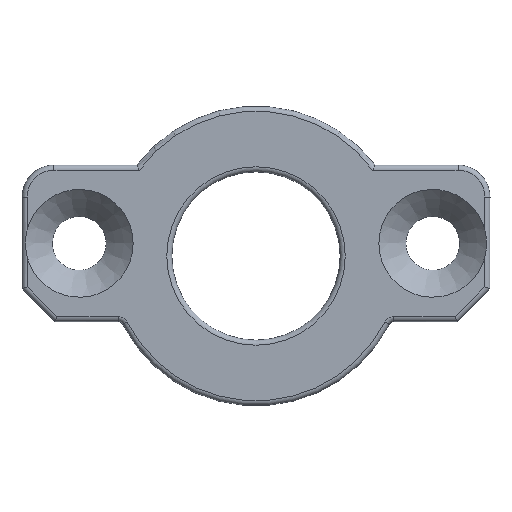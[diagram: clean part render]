
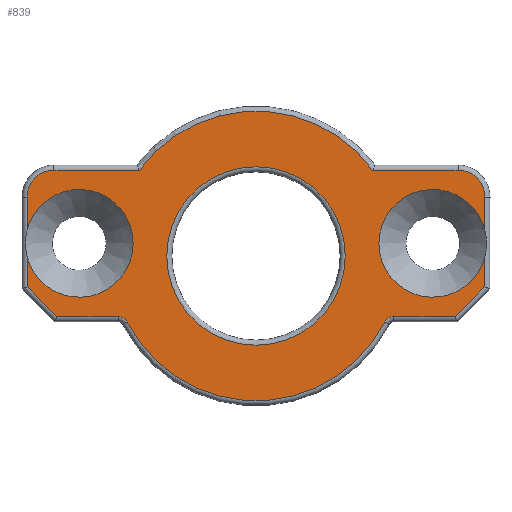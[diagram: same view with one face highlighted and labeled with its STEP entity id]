
A CAD part, top view. The second image highlights one B-rep face of the part: STEP entity #839.
In plain terms, the highlighted planar face has unit normal (0, 0, 1).
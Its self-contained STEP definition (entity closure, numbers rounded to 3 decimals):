
#33=FACE_BOUND('',#270,.T.);
#38=PLANE('',#965);
#49=LINE('',#1351,#103);
#51=LINE('',#1358,#105);
#52=LINE('',#1361,#106);
#75=LINE('',#1506,#129);
#76=LINE('',#1509,#130);
#79=LINE('',#1515,#133);
#81=LINE('',#1522,#135);
#82=LINE('',#1542,#136);
#84=LINE('',#1544,#138);
#85=LINE('',#1552,#139);
#103=VECTOR('',#1022,10.);
#105=VECTOR('',#1028,10.);
#106=VECTOR('',#1031,10.);
#129=VECTOR('',#1164,10.);
#130=VECTOR('',#1169,10.);
#133=VECTOR('',#1174,10.);
#135=VECTOR('',#1182,10.);
#136=VECTOR('',#1193,10.);
#138=VECTOR('',#1195,10.);
#139=VECTOR('',#1206,10.);
#215=FACE_OUTER_BOUND('',#269,.T.);
#269=EDGE_LOOP('',(#679,#680,#681,#682,#683,#684,#685,#686,#687,#688,#689,
#690,#691,#692,#693,#694,#695,#696,#697));
#270=EDGE_LOOP('',(#698));
#298=CIRCLE('',#888,8.6);
#304=CIRCLE('',#899,0.6);
#308=CIRCLE('',#904,0.6);
#329=CIRCLE('',#946,8.6);
#333=CIRCLE('',#957,1.6);
#336=CIRCLE('',#962,1.6);
#338=CIRCLE('',#966,3.2);
#339=CIRCLE('',#967,3.2);
#340=CIRCLE('',#968,3.2);
#341=CIRCLE('',#969,5.3);
#352=VERTEX_POINT('',#1298);
#353=VERTEX_POINT('',#1299);
#356=VERTEX_POINT('',#1333);
#358=VERTEX_POINT('',#1342);
#359=VERTEX_POINT('',#1350);
#362=VERTEX_POINT('',#1356);
#363=VERTEX_POINT('',#1360);
#366=VERTEX_POINT('',#1367);
#368=VERTEX_POINT('',#1371);
#370=VERTEX_POINT('',#1376);
#372=VERTEX_POINT('',#1380);
#402=VERTEX_POINT('',#1505);
#404=VERTEX_POINT('',#1514);
#406=VERTEX_POINT('',#1520);
#408=VERTEX_POINT('',#1525);
#409=VERTEX_POINT('',#1530);
#410=VERTEX_POINT('',#1531);
#412=VERTEX_POINT('',#1547);
#413=VERTEX_POINT('',#1555);
#414=VERTEX_POINT('',#1559);
#426=EDGE_CURVE('',#352,#353,#298,.T.);
#432=EDGE_CURVE('',#358,#359,#49,.T.);
#436=EDGE_CURVE('',#362,#356,#51,.T.);
#437=EDGE_CURVE('',#359,#363,#52,.T.);
#443=EDGE_CURVE('',#368,#366,#304,.T.);
#447=EDGE_CURVE('',#372,#370,#308,.T.);
#494=EDGE_CURVE('',#366,#372,#329,.T.);
#497=EDGE_CURVE('',#370,#402,#75,.T.);
#499=EDGE_CURVE('',#363,#368,#76,.T.);
#502=EDGE_CURVE('',#402,#404,#79,.T.);
#506=EDGE_CURVE('',#406,#352,#81,.T.);
#508=EDGE_CURVE('',#408,#406,#333,.T.);
#511=EDGE_CURVE('',#410,#408,#82,.T.);
#513=EDGE_CURVE('',#404,#409,#84,.T.);
#515=EDGE_CURVE('',#412,#362,#336,.T.);
#517=EDGE_CURVE('',#353,#412,#85,.T.);
#519=EDGE_CURVE('',#413,#410,#338,.T.);
#520=EDGE_CURVE('',#409,#413,#339,.T.);
#521=EDGE_CURVE('',#356,#358,#340,.T.);
#522=EDGE_CURVE('',#414,#414,#341,.T.);
#679=ORIENTED_EDGE('',*,*,#436,.F.);
#680=ORIENTED_EDGE('',*,*,#515,.F.);
#681=ORIENTED_EDGE('',*,*,#517,.F.);
#682=ORIENTED_EDGE('',*,*,#426,.F.);
#683=ORIENTED_EDGE('',*,*,#506,.F.);
#684=ORIENTED_EDGE('',*,*,#508,.F.);
#685=ORIENTED_EDGE('',*,*,#511,.F.);
#686=ORIENTED_EDGE('',*,*,#519,.F.);
#687=ORIENTED_EDGE('',*,*,#520,.F.);
#688=ORIENTED_EDGE('',*,*,#513,.F.);
#689=ORIENTED_EDGE('',*,*,#502,.F.);
#690=ORIENTED_EDGE('',*,*,#497,.F.);
#691=ORIENTED_EDGE('',*,*,#447,.F.);
#692=ORIENTED_EDGE('',*,*,#494,.F.);
#693=ORIENTED_EDGE('',*,*,#443,.F.);
#694=ORIENTED_EDGE('',*,*,#499,.F.);
#695=ORIENTED_EDGE('',*,*,#437,.F.);
#696=ORIENTED_EDGE('',*,*,#432,.F.);
#697=ORIENTED_EDGE('',*,*,#521,.F.);
#698=ORIENTED_EDGE('',*,*,#522,.F.);
#839=ADVANCED_FACE('',(#215,#33),#38,.T.);
#888=AXIS2_PLACEMENT_3D('',#1300,#1016,#1017);
#899=AXIS2_PLACEMENT_3D('',#1373,#1043,#1044);
#904=AXIS2_PLACEMENT_3D('',#1382,#1053,#1054);
#946=AXIS2_PLACEMENT_3D('',#1500,#1157,#1158);
#957=AXIS2_PLACEMENT_3D('',#1527,#1187,#1188);
#962=AXIS2_PLACEMENT_3D('',#1549,#1200,#1201);
#965=AXIS2_PLACEMENT_3D('',#1554,#1208,#1209);
#966=AXIS2_PLACEMENT_3D('',#1556,#1210,#1211);
#967=AXIS2_PLACEMENT_3D('',#1557,#1212,#1213);
#968=AXIS2_PLACEMENT_3D('',#1558,#1214,#1215);
#969=AXIS2_PLACEMENT_3D('',#1560,#1216,#1217);
#1016=DIRECTION('center_axis',(0.,0.,-1.));
#1017=DIRECTION('ref_axis',(0.,1.,0.));
#1022=DIRECTION('',(0.,-1.,0.));
#1028=DIRECTION('',(0.,-1.,0.));
#1031=DIRECTION('',(-0.707,-0.707,0.));
#1043=DIRECTION('center_axis',(0.,0.,1.));
#1044=DIRECTION('ref_axis',(-0.521,0.853,0.));
#1053=DIRECTION('center_axis',(0.,0.,1.));
#1054=DIRECTION('ref_axis',(0.521,0.853,0.));
#1157=DIRECTION('center_axis',(0.,0.,-1.));
#1158=DIRECTION('ref_axis',(0.,-1.,0.));
#1164=DIRECTION('',(-1.,0.,0.));
#1169=DIRECTION('',(-1.,0.,0.));
#1174=DIRECTION('',(-0.707,0.707,0.));
#1182=DIRECTION('',(1.,0.,0.));
#1187=DIRECTION('center_axis',(0.,0.,-1.));
#1188=DIRECTION('ref_axis',(-0.707,0.707,0.));
#1193=DIRECTION('',(0.,1.,0.));
#1195=DIRECTION('',(0.,1.,0.));
#1200=DIRECTION('center_axis',(0.,0.,-1.));
#1201=DIRECTION('ref_axis',(0.707,0.707,0.));
#1206=DIRECTION('',(1.,0.,0.));
#1208=DIRECTION('center_axis',(0.,0.,1.));
#1209=DIRECTION('ref_axis',(1.,0.,0.));
#1210=DIRECTION('center_axis',(0.,0.,1.));
#1211=DIRECTION('ref_axis',(-1.,0.,0.));
#1212=DIRECTION('center_axis',(0.,0.,1.));
#1213=DIRECTION('ref_axis',(-1.,0.,0.));
#1214=DIRECTION('center_axis',(0.,0.,1.));
#1215=DIRECTION('ref_axis',(-1.,0.,0.));
#1216=DIRECTION('center_axis',(0.,0.,1.));
#1217=DIRECTION('ref_axis',(-1.,0.,0.));
#1298=CARTESIAN_POINT('',(-6.925,5.1,2.));
#1299=CARTESIAN_POINT('',(6.925,5.1,2.));
#1300=CARTESIAN_POINT('Origin',(0.,0.,
2.));
#1333=CARTESIAN_POINT('',(13.6,1.544,2.));
#1342=CARTESIAN_POINT('',(13.6,-0.044,2.));
#1350=CARTESIAN_POINT('',(13.6,-1.834,2.));
#1351=CARTESIAN_POINT('',(13.6,-0.802,2.));
#1356=CARTESIAN_POINT('',(13.6,3.5,2.));
#1358=CARTESIAN_POINT('',(13.6,-0.802,2.));
#1360=CARTESIAN_POINT('',(11.834,-3.6,2.));
#1361=CARTESIAN_POINT('',(9.821,-5.614,2.));
#1367=CARTESIAN_POINT('',(7.652,-3.926,2.));
#1371=CARTESIAN_POINT('',(8.185,-3.6,2.));
#1373=CARTESIAN_POINT('Origin',(8.185,-4.2,2.));
#1376=CARTESIAN_POINT('',(-8.185,-3.6,2.));
#1380=CARTESIAN_POINT('',(-7.652,-3.926,2.));
#1382=CARTESIAN_POINT('Origin',(-8.185,-4.2,2.));
#1500=CARTESIAN_POINT('Origin',(0.,0.,
2.));
#1505=CARTESIAN_POINT('',(-11.834,-3.6,2.));
#1506=CARTESIAN_POINT('',(-5.979,-3.6,2.));
#1509=CARTESIAN_POINT('',(4.,-3.6,2.));
#1514=CARTESIAN_POINT('',(-13.6,-1.834,2.));
#1515=CARTESIAN_POINT('',(-10.791,-4.643,2.));
#1520=CARTESIAN_POINT('',(-12.,5.1,2.));
#1522=CARTESIAN_POINT('',(-3.537,5.1,2.));
#1525=CARTESIAN_POINT('',(-13.6,3.5,2.));
#1527=CARTESIAN_POINT('Origin',(-12.,3.5,2.));
#1530=CARTESIAN_POINT('',(-13.6,-0.044,2.));
#1531=CARTESIAN_POINT('',(-13.6,1.544,2.));
#1542=CARTESIAN_POINT('',(-13.6,1.928,2.));
#1544=CARTESIAN_POINT('',(-13.6,1.928,2.));
#1547=CARTESIAN_POINT('',(12.,5.1,2.));
#1549=CARTESIAN_POINT('Origin',(12.,3.5,2.));
#1552=CARTESIAN_POINT('',(6.,5.1,2.));
#1554=CARTESIAN_POINT('Origin',(0.,0.355,
2.));
#1555=CARTESIAN_POINT('',(-7.3,0.75,2.));
#1556=CARTESIAN_POINT('Origin',(-10.5,0.75,2.));
#1557=CARTESIAN_POINT('Origin',(-10.5,0.75,2.));
#1558=CARTESIAN_POINT('Origin',(10.5,0.75,2.));
#1559=CARTESIAN_POINT('',(5.3,0.,2.));
#1560=CARTESIAN_POINT('Origin',(0.,0.,
2.));
